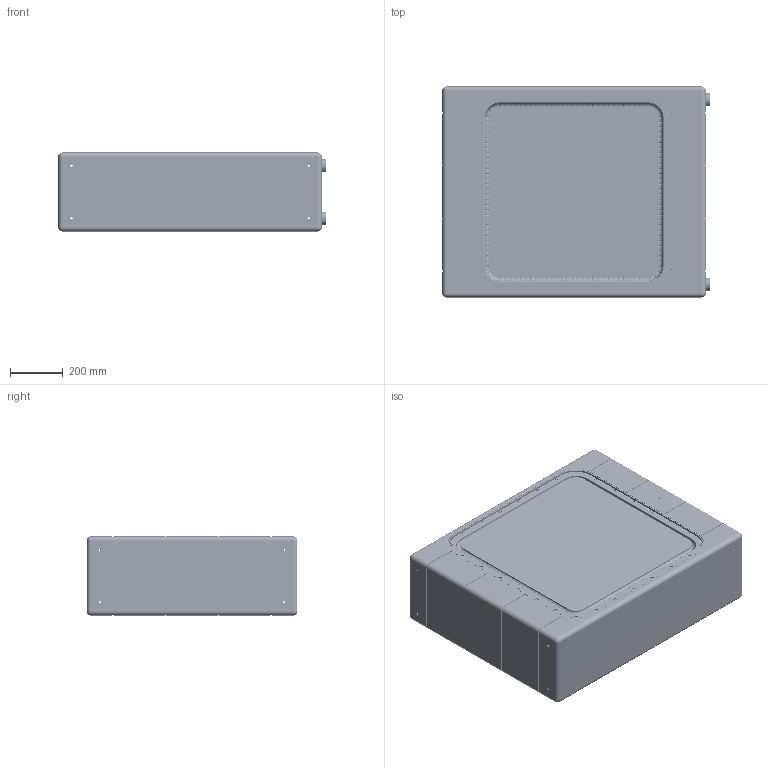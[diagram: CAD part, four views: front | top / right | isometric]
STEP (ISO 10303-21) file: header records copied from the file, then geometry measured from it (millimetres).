
FILE_DESCRIPTION(/* description */ ('','CAx-IF Rec.Pracs.---Representation and Presentation of Product Manufacturing Information (PMI)---4.0---2014-10-13'),/* implementation_level */ '2;1');
FILE_NAME(/* name */ '3D_THE28 SUB SQUARED PRO PASSIVE SEALED SHALLOW_Public.step',/* time_stamp */ '2025-01-07T10:02:39+01:00',/* author */ (''),/* organization */ (''),/* preprocessor_version */ 'ST-DEVELOPER v20',/* originating_system */ 'Autodesk Translation Framework v13.20.0.188',/* authorisation */ '');
FILE_SCHEMA (('AP242_MANAGED_MODEL_BASED_3D_ENGINEERING_MIM_LF { 1 0 10303 442 1 1 4 }'));
Products named in the file (1): 28inch speaker_Public Version
Bounding box: 1015 x 800 x 300 mm (x, y, z)
Volume: 57965048.5 mm3; surface area: 6736796.3 mm2
Topology: 1 solids, 78 shells, 7088 faces, 18338 edges, 11872 vertices
Faces by surface type: plane 3257, bspline 2119, cylinder 1233, torus 315, cone 144, sphere 20
Full cylindrical faces by diameter (mm): 1 x8, 1.2 x12, 1.4 x8, 1.5 x12, 1.8 x4, 1.9 x8, 2 x12, 2.2 x4, 2.5 x12, 3 x2, 4 x36, 4.5 x44, 6.5 x28, 7 x28, 7.3 x4, 8 x52, 8.5 x16, 10 x4, 19 x4, 50 x4
Entity records: 772445 total; most frequent: CARTESIAN_POINT 608384, ORIENTED_EDGE 36604, DIRECTION 29002, EDGE_CURVE 18302, VERTEX_POINT 11872, LINE 10632, VECTOR 10632, AXIS2_PLACEMENT_3D 9185
